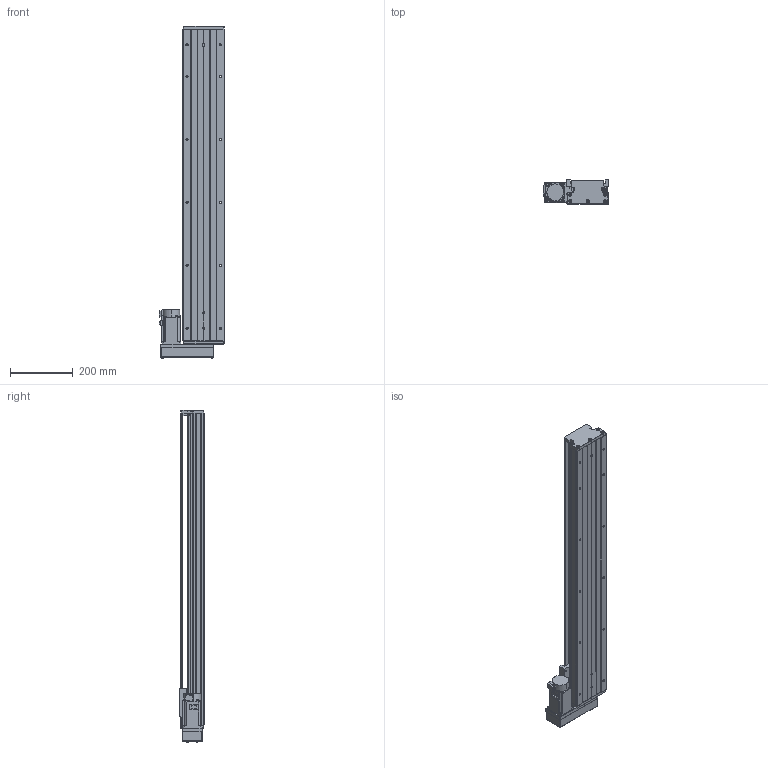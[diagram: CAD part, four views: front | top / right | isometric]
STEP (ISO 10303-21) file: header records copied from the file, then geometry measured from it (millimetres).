
FILE_DESCRIPTION (( 'STEP AP203' ), '1' );
FILE_NAME ('KTH130-850-BL-M40-C4.step', '2023-06-30T04:00:11', ( '微软用户' ), ( '微软中国' ), 'SwSTEP 2.0', 'SolidWorks 2020', '' );
FILE_SCHEMA (( 'CONFIG_CONTROL_DESIGN' ));
Length unit declared in the file: millimetre
Products named in the file (19): GBT 70.2-M3¡Á5_M3¡Á6; GBT 70.3-M3℅8; GTH14-001_850; CTHA60-017; HG-KN43J-S100; KTH130-002_KTH130-002; EE_SX911P_R; GBT 70.2-M4¡Á35_M4¡Á35; KTH130-004; CTHA60-016; GTH14-015-2_CTHA86-015-2; KTH130-005; GBT 70.1-M3℅5; GTH14-033; GB1155-6X6; GBT77-2000 M3×3; KTH130-850-BL-M40-C4; GBT70.1 M5℅16; す晦芛蹟隊 M3℅5
Assembly tree (53 placements, depth 2):
  KTH130-850-BL-M40-C4
    GTH14-001_850
    KTH130-002_KTH130-002
    KTH130-004
    KTH130-005
    GB1155-6X6  x2
    GBT70.1 M5℅16  x10
    GBT 70.2-M3¡Á5_M3¡Á6  x4
    CTHA60-017  x3
    EE_SX911P_R  x3
    CTHA60-016  x2
    GBT 70.1-M3℅5  x6
    GBT77-2000 M3×3  x6
    す晦芛蹟隊 M3℅5  x2
    GBT 70.3-M3℅8  x4
    HG-KN43J-S100
    GBT 70.2-M4¡Á35_M4¡Á35  x4
    GTH14-015-2_CTHA86-015-2
    GTH14-033
Bounding box: 209.3 x 78 x 1054.2 mm (x, y, z)
Volume: 5920673.2 mm3; surface area: 947631 mm2
Topology: 56 solids, 56 shells, 2233 faces, 5390 edges, 3358 vertices
Faces by surface type: plane 1199, cylinder 620, cone 290, torus 100, sphere 24
Entity records: 40866 total; most frequent: CARTESIAN_POINT 8684, DIRECTION 6099, ORIENTED_EDGE 5980, EDGE_CURVE 2990, AXIS2_PLACEMENT_3D 2104, VERTEX_POINT 1911, LINE 1891, VECTOR 1891
